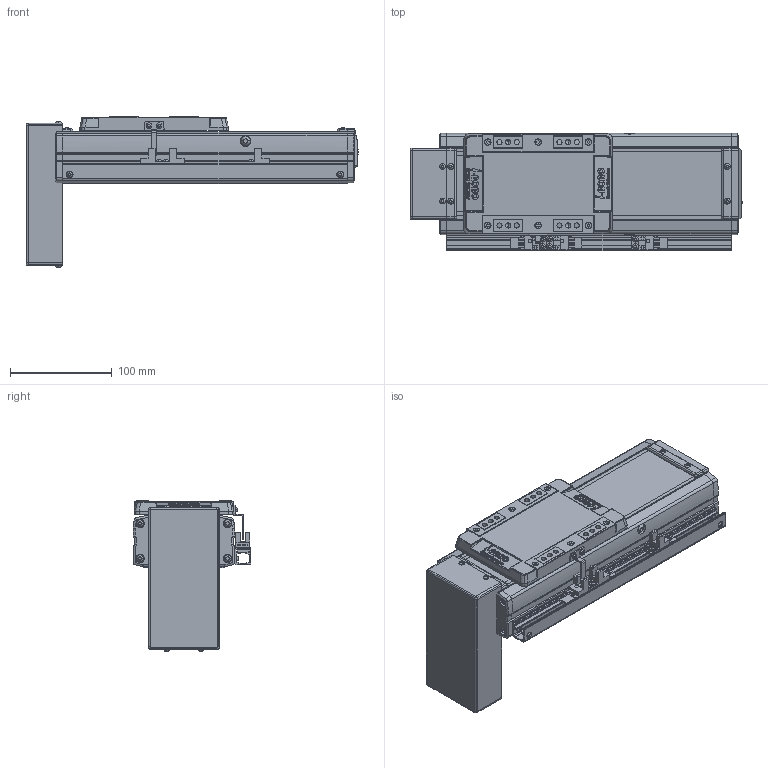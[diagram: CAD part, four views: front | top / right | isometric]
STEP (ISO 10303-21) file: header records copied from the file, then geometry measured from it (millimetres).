
FILE_DESCRIPTION(('STEP AP214'),'1');
FILE_NAME('Z:/Web/3D/SAN100/SAN100 양산용 (STEP)/SAN100ㅁㅁ-100PB+3SR.stp','2013-04-24T06:50:56',(' '),(' '),'Spatial InterOp 3D',' ',' ');
FILE_SCHEMA(('automotive_design'));
Length unit declared in the file: millimetre
Products named in the file (53): SUS COVER; SFX-SAN100; RRCV-SAN100; 스크루 : Round - M4.0 x 10.0; M3.0 x 6.0; 스크루 : Round - M3.0 x 6.0; FRBL-SAN100; SLBL-SAN100; SLCV-SAN100; 스크루 : Countersunk - M3.0 x 6.0; BASE; 스크루 : Round - M5.0 x 6.0; BTCV-SAN100; FRCV-SAN100; EE-SX674; SBK-SX674-352; SRL-16x17-380L; SGD-SAN100
Bounding box: 326.5 x 116 x 148.36 mm (x, y, z)
Volume: 1308693 mm3; surface area: 344811.8 mm2
Topology: 53 solids, 54 shells, 2417 faces, 6268 edges, 4065 vertices
Faces by surface type: plane 1334, cylinder 779, cone 194, sphere 68, torus 30, bspline 12
Entity records: 94794 total; most frequent: CARTESIAN_POINT 13717, DIRECTION 13253, ORIENTED_EDGE 12396, EDGE_CURVE 6198, AXIS2_PLACEMENT_3D 4670, VERTEX_POINT 4065, LINE 3913, VECTOR 3913
